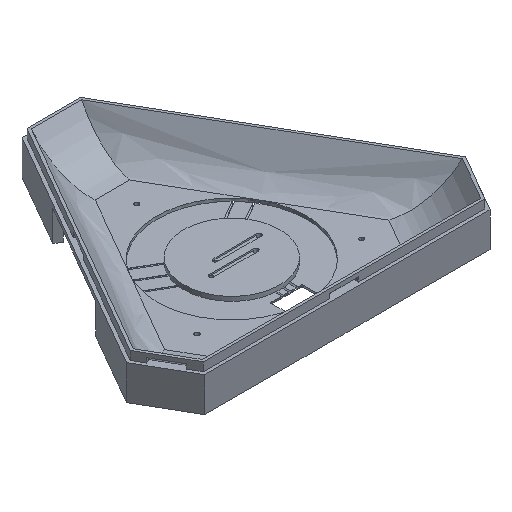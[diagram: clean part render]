
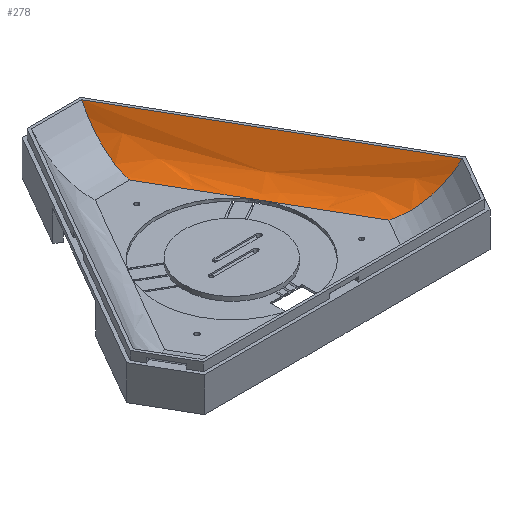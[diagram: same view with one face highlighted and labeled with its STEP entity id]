
A CAD part, isometric view. The second image highlights one B-rep face of the part: STEP entity #278.
In plain terms, the highlighted free-form (B-spline) face has degree [1, 3] with [2, 4] control points.
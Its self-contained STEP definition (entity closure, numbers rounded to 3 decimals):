
#278=ADVANCED_FACE($,(#655),#5438,.T.);
#655=FACE_OUTER_BOUND($,#1038,.T.);
#1038=EDGE_LOOP($,(#2597,#2598,#2599,#2600,#2601));
#2597=ORIENTED_EDGE($,*,*,#4272,.T.);
#2598=ORIENTED_EDGE($,*,*,#4271,.T.);
#2599=ORIENTED_EDGE($,*,*,#4270,.T.);
#2600=ORIENTED_EDGE($,*,*,#4269,.F.);
#2601=ORIENTED_EDGE($,*,*,#4250,.T.);
#4250=EDGE_CURVE($,#5137,#5136,#6349,.T.);
#4269=EDGE_CURVE($,#5137,#5147,#6366,.T.);
#4270=EDGE_CURVE($,#5050,#5147,#6367,.T.);
#4271=EDGE_CURVE($,#5148,#5050,#6368,.T.);
#4272=EDGE_CURVE($,#5136,#5148,#6369,.T.);
#5050=VERTEX_POINT($,#15381);
#5136=VERTEX_POINT($,#15467);
#5137=VERTEX_POINT($,#15468);
#5147=VERTEX_POINT($,#15478);
#5148=VERTEX_POINT($,#15479);
#5438=B_SPLINE_SURFACE_WITH_KNOTS($,1,3,((#14464,#14465,#14466,#14467),(#14468,
#14469,#14470,#14471)),.UNSPECIFIED.,.F.,.F.,.F.,(2,2),(4,4),(7.588,
46.254),(0.,1.),.UNSPECIFIED.);
#6349=B_SPLINE_CURVE_WITH_KNOTS($,1,(#11131,#11132),.UNSPECIFIED.,.F.,.F.,
(2,2),(7.588,46.254),.UNSPECIFIED.);
#6366=B_SPLINE_CURVE_WITH_KNOTS($,3,(#11177,#11178,#11179,#11180),.UNSPECIFIED.,
.F.,.F.,(4,4),(0.,1.),.UNSPECIFIED.);
#6367=B_SPLINE_CURVE_WITH_KNOTS($,1,(#11181,#11182),.UNSPECIFIED.,.F.,.F.,
(2,2),(102.429,121.762),.UNSPECIFIED.);
#6368=B_SPLINE_CURVE_WITH_KNOTS($,1,(#11183,#11184),.UNSPECIFIED.,.F.,.F.,
(2,2),(83.096,102.429),.UNSPECIFIED.);
#6369=B_SPLINE_CURVE_WITH_KNOTS($,3,(#11185,#11186,#11187,#11188),.UNSPECIFIED.,
.F.,.F.,(4,4),(0.,1.),.UNSPECIFIED.);
#11131=CARTESIAN_POINT($,(57.075,-22.857,15.));
#11132=CARTESIAN_POINT($,(8.743,60.857,15.));
#11177=CARTESIAN_POINT($,(57.075,-22.857,15.));
#11178=CARTESIAN_POINT($,(49.255,-19.725,2.));
#11179=CARTESIAN_POINT($,(38.88,-15.57,2.));
#11180=CARTESIAN_POINT($,(38.88,-15.57,2.));
#11181=CARTESIAN_POINT($,(22.418,12.943,2.));
#11182=CARTESIAN_POINT($,(38.88,-15.57,2.));
#11183=CARTESIAN_POINT($,(5.956,41.456,2.));
#11184=CARTESIAN_POINT($,(22.418,12.943,2.));
#11185=CARTESIAN_POINT($,(8.743,60.857,15.));
#11186=CARTESIAN_POINT($,(7.545,52.519,2.));
#11187=CARTESIAN_POINT($,(5.956,41.456,2.));
#11188=CARTESIAN_POINT($,(5.956,41.456,2.));
#14464=CARTESIAN_POINT($,(57.075,-22.857,15.));
#14465=CARTESIAN_POINT($,(49.255,-19.725,2.));
#14466=CARTESIAN_POINT($,(38.88,-15.57,2.));
#14467=CARTESIAN_POINT($,(38.88,-15.57,2.));
#14468=CARTESIAN_POINT($,(8.743,60.857,15.));
#14469=CARTESIAN_POINT($,(7.545,52.519,2.));
#14470=CARTESIAN_POINT($,(5.956,41.456,2.));
#14471=CARTESIAN_POINT($,(5.956,41.456,2.));
#15381=CARTESIAN_POINT($,(22.418,12.943,2.));
#15467=CARTESIAN_POINT($,(8.743,60.857,15.));
#15468=CARTESIAN_POINT($,(57.075,-22.857,15.));
#15478=CARTESIAN_POINT($,(38.88,-15.57,2.));
#15479=CARTESIAN_POINT($,(5.956,41.456,2.));
